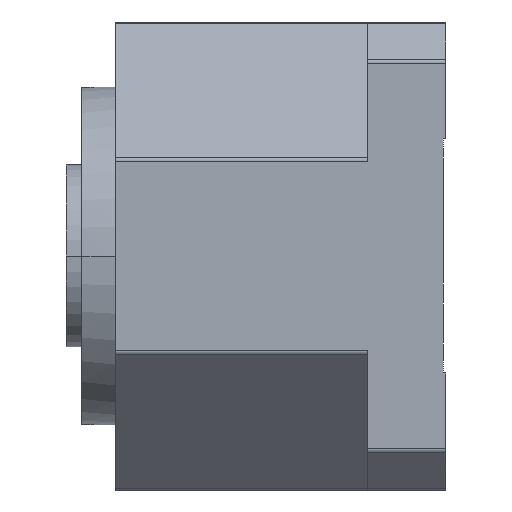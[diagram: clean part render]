
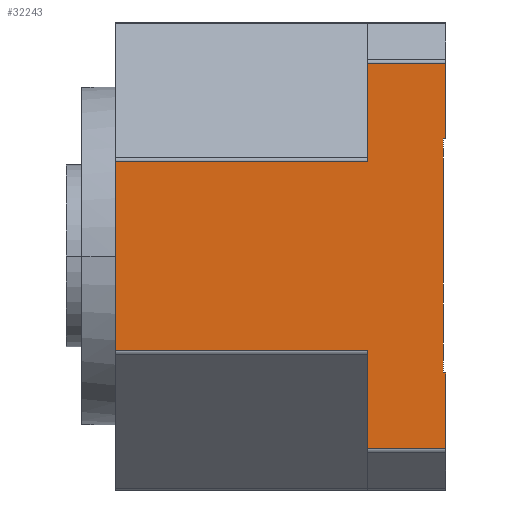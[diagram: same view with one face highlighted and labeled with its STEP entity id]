
A CAD part, left-side view. The second image highlights one B-rep face of the part: STEP entity #32243.
In plain terms, the highlighted planar face has unit normal (-1, 0, 0).
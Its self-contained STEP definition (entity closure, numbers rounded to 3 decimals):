
#27739=DIRECTION('',(0.,0.,1.));
#27740=VECTOR('',#27739,29.172);
#27741=CARTESIAN_POINT('',(-90.,-92.,-74.172));
#27742=LINE('',#27741,#27740);
#27820=DIRECTION('',(0.,0.,1.));
#27821=VECTOR('',#27820,29.172);
#27822=CARTESIAN_POINT('',(-90.,-92.,45.));
#27823=LINE('',#27822,#27821);
#27947=DIRECTION('',(0.,0.,-1.));
#27948=VECTOR('',#27947,37.721);
#27949=CARTESIAN_POINT('',(-90.,-62.,-36.451));
#27950=LINE('',#27949,#27948);
#27992=DIRECTION('',(0.,0.,-1.));
#27993=VECTOR('',#27992,37.721);
#27994=CARTESIAN_POINT('',(-90.,-62.,74.172));
#27995=LINE('',#27994,#27993);
#28173=DIRECTION('',(0.,0.,1.));
#28174=VECTOR('',#28173,72.902);
#28175=CARTESIAN_POINT('',(-90.,35.,-36.451));
#28176=LINE('',#28175,#28174);
#28708=DIRECTION('',(0.,-1.,0.));
#28709=VECTOR('',#28708,30.);
#28710=CARTESIAN_POINT('',(-90.,-62.,-74.172));
#28711=LINE('',#28710,#28709);
#28712=DIRECTION('',(0.,-1.,0.));
#28713=VECTOR('',#28712,97.);
#28714=CARTESIAN_POINT('',(-90.,35.,-36.451));
#28715=LINE('',#28714,#28713);
#28716=DIRECTION('',(0.,1.,0.));
#28717=VECTOR('',#28716,97.);
#28718=CARTESIAN_POINT('',(-90.,-62.,36.451));
#28719=LINE('',#28718,#28717);
#28720=DIRECTION('',(0.,1.,0.));
#28721=VECTOR('',#28720,30.);
#28722=CARTESIAN_POINT('',(-90.,-92.,74.172));
#28723=LINE('',#28722,#28721);
#28724=DIRECTION('',(0.,1.,0.));
#28725=VECTOR('',#28724,1.);
#28726=CARTESIAN_POINT('',(-90.,-92.,45.));
#28727=LINE('',#28726,#28725);
#28728=DIRECTION('',(0.,0.,1.));
#28729=VECTOR('',#28728,90.);
#28730=CARTESIAN_POINT('',(-90.,-91.,-45.));
#28731=LINE('',#28730,#28729);
#28732=DIRECTION('',(0.,1.,0.));
#28733=VECTOR('',#28732,1.);
#28734=CARTESIAN_POINT('',(-90.,-92.,-45.));
#28735=LINE('',#28734,#28733);
#30414=CARTESIAN_POINT('',(-90.,-92.,45.));
#30415=VERTEX_POINT('',#30414);
#30416=CARTESIAN_POINT('',(-90.,-92.,-45.));
#30418=VERTEX_POINT('',#30416);
#30422=CARTESIAN_POINT('',(-90.,-91.,-45.));
#30423=CARTESIAN_POINT('',(-90.,-91.,45.));
#30424=VERTEX_POINT('',#30422);
#30425=VERTEX_POINT('',#30423);
#30502=CARTESIAN_POINT('',(-90.,-92.,-74.172));
#30504=VERTEX_POINT('',#30502);
#30508=CARTESIAN_POINT('',(-90.,-62.,-74.172));
#30509=VERTEX_POINT('',#30508);
#30534=CARTESIAN_POINT('',(-90.,-62.,74.172));
#30536=VERTEX_POINT('',#30534);
#30540=CARTESIAN_POINT('',(-90.,-92.,74.172));
#30541=VERTEX_POINT('',#30540);
#30586=CARTESIAN_POINT('',(-90.,35.,-36.451));
#30587=VERTEX_POINT('',#30586);
#30588=CARTESIAN_POINT('',(-90.,-62.,-36.451));
#30589=VERTEX_POINT('',#30588);
#30590=CARTESIAN_POINT('',(-90.,35.,36.451));
#30592=VERTEX_POINT('',#30590);
#30596=CARTESIAN_POINT('',(-90.,-62.,36.451));
#30597=VERTEX_POINT('',#30596);
#32218=CARTESIAN_POINT('',(-90.,-92.,-90.));
#32219=DIRECTION('',(-1.,0.,0.));
#32220=DIRECTION('',(0.,0.,1.));
#32221=AXIS2_PLACEMENT_3D('',#32218,#32219,#32220);
#32222=PLANE('',#32221);
#32224=ORIENTED_EDGE('',*,*,#32223,.F.);
#32225=ORIENTED_EDGE('',*,*,#31335,.F.);
#32227=ORIENTED_EDGE('',*,*,#32226,.F.);
#32228=ORIENTED_EDGE('',*,*,#31687,.T.);
#32230=ORIENTED_EDGE('',*,*,#32229,.F.);
#32231=ORIENTED_EDGE('',*,*,#31387,.F.);
#32233=ORIENTED_EDGE('',*,*,#32232,.F.);
#32234=ORIENTED_EDGE('',*,*,#31241,.F.);
#32236=ORIENTED_EDGE('',*,*,#32235,.T.);
#32237=ORIENTED_EDGE('',*,*,#32187,.F.);
#32239=ORIENTED_EDGE('',*,*,#32238,.F.);
#32240=ORIENTED_EDGE('',*,*,#31175,.F.);
#32241=EDGE_LOOP('',(#32224,#32225,#32227,#32228,#32230,#32231,#32233,#32234,
#32236,#32237,#32239,#32240));
#32242=FACE_OUTER_BOUND('',#32241,.F.);
#32243=ADVANCED_FACE('',(#32242),#32222,.T.);
#31175=EDGE_CURVE('',#30504,#30418,#27742,.T.);
#31241=EDGE_CURVE('',#30415,#30541,#27823,.T.);
#31335=EDGE_CURVE('',#30589,#30509,#27950,.T.);
#31387=EDGE_CURVE('',#30536,#30597,#27995,.T.);
#31687=EDGE_CURVE('',#30587,#30592,#28176,.T.);
#32187=EDGE_CURVE('',#30424,#30425,#28731,.T.);
#32223=EDGE_CURVE('',#30509,#30504,#28711,.T.);
#32226=EDGE_CURVE('',#30587,#30589,#28715,.T.);
#32229=EDGE_CURVE('',#30597,#30592,#28719,.T.);
#32232=EDGE_CURVE('',#30541,#30536,#28723,.T.);
#32235=EDGE_CURVE('',#30415,#30425,#28727,.T.);
#32238=EDGE_CURVE('',#30418,#30424,#28735,.T.);
